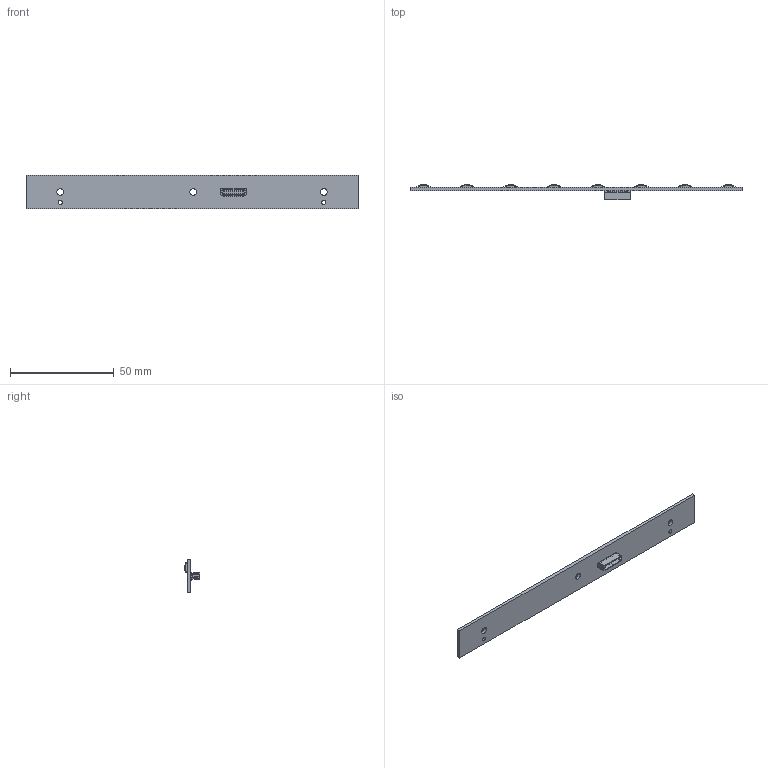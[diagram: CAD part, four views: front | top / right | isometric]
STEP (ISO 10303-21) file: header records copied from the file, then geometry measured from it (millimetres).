
FILE_DESCRIPTION((''),'2;1');
FILE_NAME('BUTTON_PCB_ASSY_ASM','2020-12-04T',('g6007893'),(''),'CREO PARAMETRIC BY PTC INC, 2014350','CREO PARAMETRIC BY PTC INC, 2014350','');
FILE_SCHEMA(('CONFIG_CONTROL_DESIGN'));
Length unit declared in the file: millimetre
Products named in the file (17): BUTTON_PCB; TACT_SWITCH; MSBR-13-001; MSBR-12-001; MSBR-11-001; MSBR-10-001; MSBR-9-001; MSBR-8-001; MSBR-7-001; MSBR-6-001; MSBR-5-001; MSBR-4-001; MSBR-3-001; MSBR-2-001; MSBR-1-001; HS6110E-10PIN_ASM; BUTTON_PCB_ASSY_ASM
Assembly tree (23 placements, depth 3):
  BUTTON_PCB_ASSY_ASM
    BUTTON_PCB
    TACT_SWITCH  x8
    HS6110E-10PIN_ASM
      MSBR-13-001
      MSBR-12-001
      MSBR-11-001
      MSBR-10-001
      MSBR-9-001
      MSBR-8-001
      MSBR-7-001
      MSBR-6-001
      MSBR-5-001
      MSBR-4-001
      MSBR-3-001
      MSBR-2-001
      MSBR-1-001
Bounding box: 160 x 7.4 x 16 mm (x, y, z)
Volume: 4331.6 mm3; surface area: 6684.6 mm2
Topology: 22 solids, 22 shells, 1343 faces, 3782 edges, 2484 vertices
Faces by surface type: plane 913, cylinder 350, bspline 48, sphere 32
Entity records: 39438 total; most frequent: CARTESIAN_POINT 5949, ORIENTED_EDGE 5408, DIRECTION 5228, EDGE_CURVE 2704, PRESENTATION_STYLE_ASSIGNMENT 2564, STYLED_ITEM 2564, CURVE_STYLE 2550, VECTOR 2120
